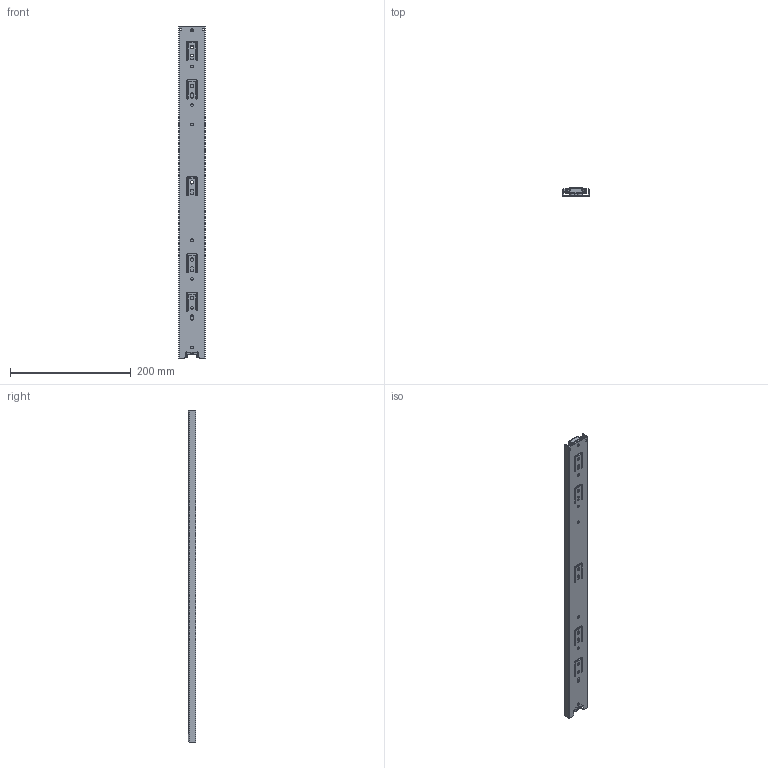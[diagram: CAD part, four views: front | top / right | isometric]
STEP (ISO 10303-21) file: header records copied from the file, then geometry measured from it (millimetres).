
FILE_DESCRIPTION(/* description */ (''),/* implementation_level */ '2;1');
FILE_NAME(/* name */ 'C:\Users\dmitruk\Documents\WORK\\X2\041D0410041F042004100412041B042F042E042904180415\X0\\Шариковые\h45 L-550 AKS.stp',/* time_stamp */ '2022-04-19T17:32:12+03:00',/* author */ ('dmitruk'),/* organization */ ('AKS'),/* preprocessor_version */ 'ST-DEVELOPER v16.5',/* originating_system */ 'Autodesk Inventor 2017',/* authorisation */ '');
FILE_SCHEMA (('AUTOMOTIVE_DESIGN { 1 0 10303 214 3 1 1 }'));
Length unit declared in the file: millimetre
Products named in the file (5): h45 L-550 AKS; h45 L-550 AKS_11; h45 L-550 AKS_12; h45 L-550_13; h45 L-550 AKS_2
Assembly tree (4 placements, depth 2):
  h45 L-550 AKS
    h45 L-550 AKS_11
    h45 L-550 AKS_12
    h45 L-550_13
    h45 L-550 AKS_2
Bounding box: 44 x 13 x 550 mm (x, y, z)
Volume: 88697.8 mm3; surface area: 175703.2 mm2
Topology: 4 solids, 4 shells, 922 faces, 2716 edges, 1766 vertices
Faces by surface type: plane 524, cylinder 326, sphere 72
Full cylindrical faces by diameter (mm): 4.5 x11, 5.5 x5
Entity records: 31444 total; most frequent: CARTESIAN_POINT 5763, ORIENTED_EDGE 5394, DIRECTION 5351, EDGE_CURVE 2697, LINE 1825, VECTOR 1825, VERTEX_POINT 1763, AXIS2_PLACEMENT_3D 1763
